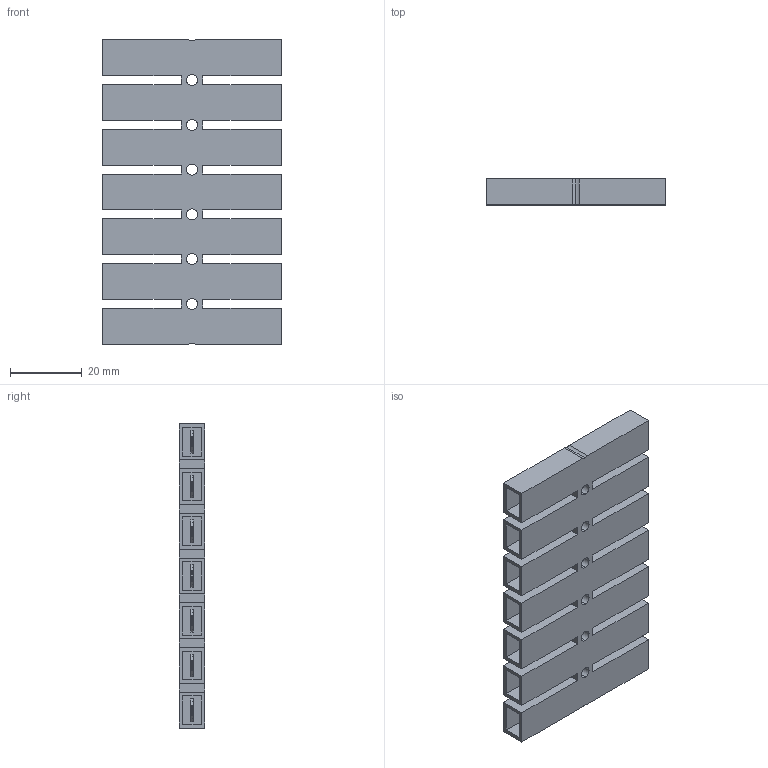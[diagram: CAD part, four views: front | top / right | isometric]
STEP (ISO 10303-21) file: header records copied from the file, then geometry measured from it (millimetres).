
FILE_DESCRIPTION (( 'STEP AP203' ), '1' );
FILE_NAME ('408-50-4.8-07.STEP', '2019-01-27T22:38:06', ( '' ), ( '' ), 'SwSTEP 2.0', 'SolidWorks 2016', '' );
FILE_SCHEMA (( 'CONFIG_CONTROL_DESIGN' ));
Length unit declared in the file: millimetre
Products named in the file (1): 408-50-4.8-07
Bounding box: 50 x 7.2 x 85 mm (x, y, z)
Volume: 13398.5 mm3; surface area: 22419.2 mm2
Topology: 1 solids, 1 shells, 373 faces, 973 edges, 630 vertices
Faces by surface type: plane 322, cylinder 51
Entity records: 11385 total; most frequent: CARTESIAN_POINT 1998, ORIENTED_EDGE 1946, DIRECTION 1816, EDGE_CURVE 973, LINE 864, VECTOR 864, VERTEX_POINT 630, AXIS2_PLACEMENT_3D 476
